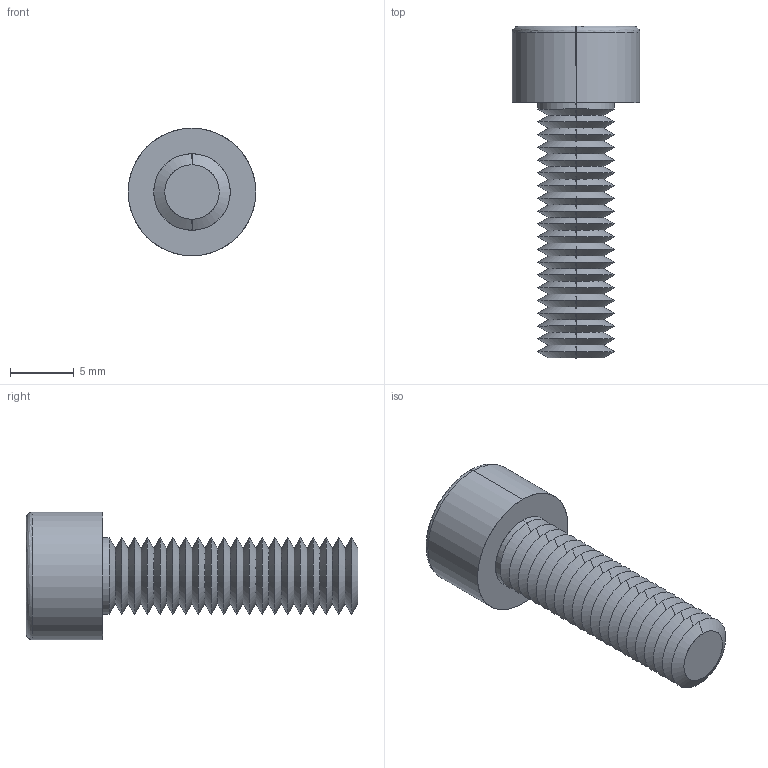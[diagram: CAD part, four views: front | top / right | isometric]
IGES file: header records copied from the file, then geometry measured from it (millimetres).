
Start section: SolidWorks IGES file using analytic representation for surfaces
Global section: file name: C:\Users\ianosborn\Desktop\N0007.91N_v2\N0007.91N_v2_20250519_IGES\91N.060.0200.igs; native system: SolidWorks 2019; preprocessor: SolidWorks 2019; author: IanOsborn; date: 250520.095252; units: millimetre
Bounding box: 10 x 26 x 10 mm (x, y, z)
Surface area: 1051.8 mm2 (no closed solid volume)
Topology: 0 solids, 0 shells, 108 faces, 629 edges, 627 vertices
Faces by surface type: revolution 91, bspline 17
